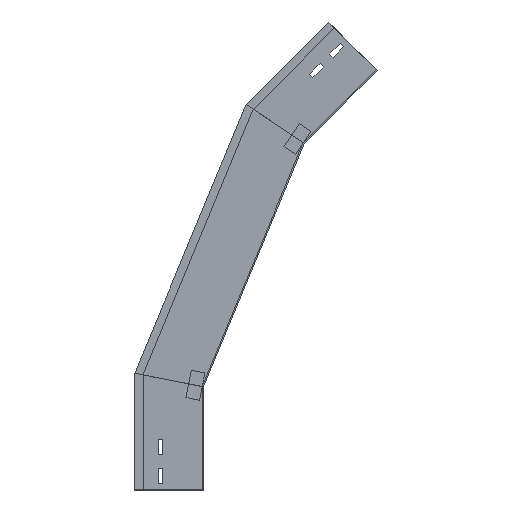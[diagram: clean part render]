
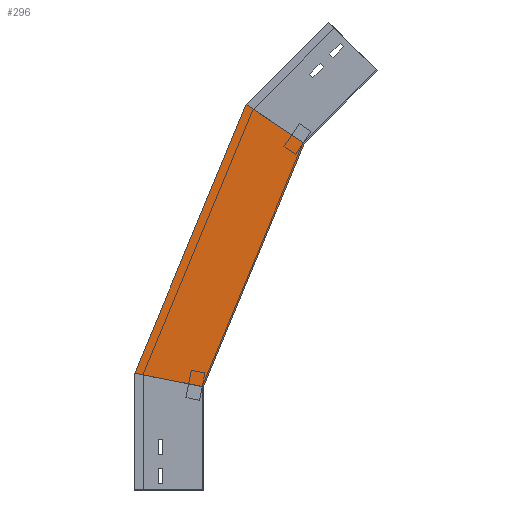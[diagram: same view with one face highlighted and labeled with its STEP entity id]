
A CAD part, left-side view. The second image highlights one B-rep face of the part: STEP entity #296.
In plain terms, the highlighted planar face has unit normal (-1, 0, 0) as drawn and (1, 0, 0) by its records, which use the part's own axes.
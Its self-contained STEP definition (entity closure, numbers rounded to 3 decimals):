
#28 = ORIENTED_EDGE ( 'NONE', *, *, #619, .F. ) ;
#142 = CARTESIAN_POINT ( 'NONE',  ( 0., -212.26, 459.952 ) ) ;
#156 = VECTOR ( 'NONE', #610, 1000. ) ;
#159 = CARTESIAN_POINT ( 'NONE',  ( 0., -146.568, 503.846 ) ) ;
#183 = VECTOR ( 'NONE', #979, 1000. ) ;
#211 = CARTESIAN_POINT ( 'NONE',  ( 0., -28.701, 144.291 ) ) ;
#264 = VERTEX_POINT ( 'NONE', #1179 ) ;
#296 = ADVANCED_FACE ( 'NONE', ( #1439 ), #737, .T. ) ;
#394 = CARTESIAN_POINT ( 'NONE',  ( 0., 8.412, 129.693 ) ) ;
#423 = VECTOR ( 'NONE', #1036, 1000. ) ;
#488 = EDGE_LOOP ( 'NONE', ( #1249, #820, #895, #28 ) ) ;
#607 = CARTESIAN_POINT ( 'NONE',  ( 0., 100., 169.891 ) ) ;
#610 = DIRECTION ( 'NONE',  ( 0., -0.831, -0.556 ) ) ;
#619 = EDGE_CURVE ( 'NONE', #720, #264, #1270, .T. ) ;
#633 = AXIS2_PLACEMENT_3D ( 'NONE', #953, #715, #1433 ) ;
#661 = CARTESIAN_POINT ( 'NONE',  ( 0., -61.792, 560.491 ) ) ;
#715 = DIRECTION ( 'NONE',  ( 1., 0., 0. ) ) ;
#717 = LINE ( 'NONE', #1193, #742 ) ;
#720 = VERTEX_POINT ( 'NONE', #607 ) ;
#737 = PLANE ( 'NONE',  #633 ) ;
#742 = VECTOR ( 'NONE', #1317, 1000. ) ;
#751 = EDGE_CURVE ( 'NONE', #1359, #1187, #843, .T. ) ;
#820 = ORIENTED_EDGE ( 'NONE', *, *, #751, .T. ) ;
#843 = LINE ( 'NONE', #142, #156 ) ;
#895 = ORIENTED_EDGE ( 'NONE', *, *, #1210, .F. ) ;
#953 = CARTESIAN_POINT ( 'NONE',  ( 0., 8.412, 129.693 ) ) ;
#979 = DIRECTION ( 'NONE',  ( 0., -0.383, 0.924 ) ) ;
#1036 = DIRECTION ( 'NONE',  ( 0., -0.981, -0.195 ) ) ;
#1077 = EDGE_CURVE ( 'NONE', #720, #1359, #717, .T. ) ;
#1179 = CARTESIAN_POINT ( 'NONE',  ( 0., 0., 150. ) ) ;
#1187 = VERTEX_POINT ( 'NONE', #159 ) ;
#1193 = CARTESIAN_POINT ( 'NONE',  ( 0., 100.799, 167.961 ) ) ;
#1210 = EDGE_CURVE ( 'NONE', #264, #1187, #1239, .T. ) ;
#1239 = LINE ( 'NONE', #394, #183 ) ;
#1249 = ORIENTED_EDGE ( 'NONE', *, *, #1077, .T. ) ;
#1270 = LINE ( 'NONE', #211, #423 ) ;
#1317 = DIRECTION ( 'NONE',  ( 0., -0.383, 0.924 ) ) ;
#1359 = VERTEX_POINT ( 'NONE', #661 ) ;
#1433 = DIRECTION ( 'NONE',  ( 0., 0., -1. ) ) ;
#1439 = FACE_OUTER_BOUND ( 'NONE', #488, .T. ) ;
